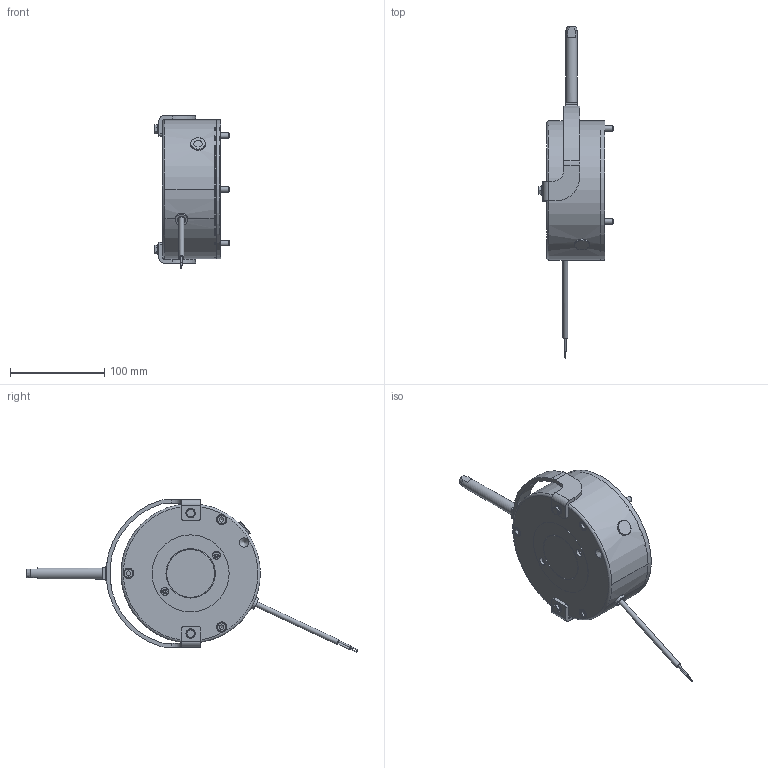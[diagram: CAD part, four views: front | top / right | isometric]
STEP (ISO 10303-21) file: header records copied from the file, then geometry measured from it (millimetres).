
FILE_DESCRIPTION(/* description */ (''),/* implementation_level */ '2;1');
FILE_NAME(/* name */ 'C:\SapWorkDir\Inventor\IP1\ConvertTempPath\5028783_IPT_000.ipt.stp',/* time_stamp */ '2020-09-17T15:03:39+02:00',/* author */ ('STRATE'),/* organization */ (''),/* preprocessor_version */ 'ST-DEVELOPER v17',/* originating_system */ 'Autodesk Inventor 2018',/* authorisation */ '');
FILE_SCHEMA (('AUTOMOTIVE_DESIGN { 1 0 10303 214 3 1 1 }'));
Length unit declared in the file: millimetre
Products named in the file (1): 5028783
Bounding box: 79.5 x 352.95 x 162.61 mm (x, y, z)
Volume: 780089.6 mm3; surface area: 177946.8 mm2
Topology: 4 solids, 4 shells, 555 faces, 1505 edges, 1013 vertices
Faces by surface type: cylinder 330, plane 156, cone 45, torus 24
Full cylindrical faces by diameter (mm): 0.01 x1, 1 x2, 1.85 x2, 5 x2, 5.3 x3, 6 x5, 6.2 x3, 6.5 x5, 6.6 x4, 6.88 x2, 8 x1, 8.376 x2, 9.2 x2, 9.9 x3, 10 x6, 11 x3, 12 x1, 13.2 x1, 16 x1, 44 x1, 51.9 x1, 52 x3, 69.5 x2, 82 x1, 115 x1, 140 x1, 146.2 x2, 148 x1
Entity records: 19386 total; most frequent: CARTESIAN_POINT 4646, ORIENTED_EDGE 3010, DIRECTION 2918, EDGE_CURVE 1505, AXIS2_PLACEMENT_3D 1182, VERTEX_POINT 1013, EDGE_LOOP 634, CIRCLE 626
